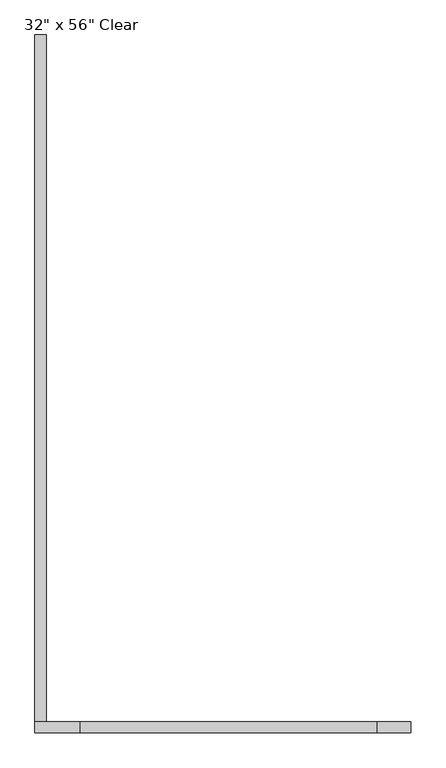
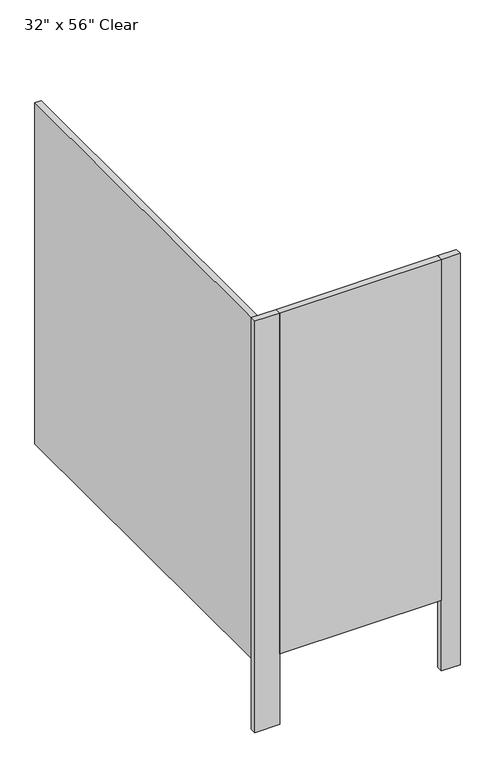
"""IFC4 building model written with IfcOpenShell, lengths in millimetres: proxy geometry."""

import ifcopenshell
import ifcopenshell.guid

model = None  # the IFC model being written
_history = None  # IfcOwnerHistory: only IFC2X3 demands one
_inside = {}  # id of a spatial element -> (the spatial element, [elements in it])
_under = {}  # id of a project, library or spatial element -> (it, [spatial elements below it])
_declared = {}  # id of a project -> (the project, [libraries it declares])
_typed = {}  # id of a type object -> (the type object, [elements of that type])
_made_of = {}  # id of a material, layer set ... -> (it, [elements and type objects made of it])


def new_model(schema):
    """Start an empty IFC model of exactly this schema.

    Asked for "IFC4X3", IfcOpenShell would pick the latest addendum, in which some entities
    have other attributes; the version numbers below select the first issue.
    IFC2X3 requires an IfcOwnerHistory on every rooted entity: one is made here for all.
    """
    global model, _history
    if schema == "IFC4X3":
        model = ifcopenshell.file(schema_version=(4, 3, 0, 0))
    else:
        model = ifcopenshell.file(schema=schema)
    _inside.clear()
    _under.clear()
    _declared.clear()
    _typed.clear()
    _made_of.clear()
    _history = None
    if model.schema == "IFC2X3":
        org = make("IfcOrganization", Name="unknown")
        user = make(
            "IfcPersonAndOrganization",
            ThePerson=make("IfcPerson", FamilyName="unknown"),
            TheOrganization=org,
        )
        app = make(
            "IfcApplication",
            ApplicationDeveloper=org,
            Version="unknown",
            ApplicationFullName="unknown",
            ApplicationIdentifier="unknown",
        )
        _history = make(
            "IfcOwnerHistory",
            OwningUser=user,
            OwningApplication=app,
            ChangeAction="ADDED",
            CreationDate=0,
        )
    return model


def make(cls, **values):
    """One entity of the class cls with the attributes given. An attribute that is None is left unset."""
    return model.create_entity(
        cls, **{name: value for name, value in values.items() if value is not None}
    )


def rooted(cls, **values):
    """An entity with a GlobalId (a new one), such as an element, a storey or a relation."""
    return make(cls, GlobalId=ifcopenshell.guid.new(), OwnerHistory=_history, **values)


def si_unit(unit_type, name, prefix=None):
    """IfcSIUnit, for example si_unit("LENGTHUNIT", "METRE", prefix="MILLI")."""
    return make("IfcSIUnit", UnitType=unit_type, Prefix=prefix, Name=name)


def assignment(units):
    """IfcUnitAssignment: the units of a project."""
    return None if units is None else make("IfcUnitAssignment", Units=units)


def point(xyz):
    """IfcCartesianPoint."""
    return None if xyz is None else make("IfcCartesianPoint", Coordinates=xyz)


def direction(xyz):
    """IfcDirection."""
    return None if xyz is None else make("IfcDirection", DirectionRatios=xyz)


def frame(location, z_axis=None, x_axis=None):
    """IfcAxis2Placement3D, a coordinate frame: its origin and axes. An axis left out is left unset."""
    return make(
        "IfcAxis2Placement3D",
        Location=point(location),
        Axis=direction(z_axis),
        RefDirection=direction(x_axis),
    )


def origin():
    """The frame at (0, 0, 0) with its axes left unset."""
    return frame((0.0, 0.0, 0.0))


def origin_with_axes():
    """The frame at (0, 0, 0) with the z axis (0, 0, 1) and the x axis (1, 0, 0) written out."""
    return frame((0.0, 0.0, 0.0), z_axis=(0.0, 0.0, 1.0), x_axis=(1.0, 0.0, 0.0))


def place(relative_to, where):
    """IfcLocalPlacement: puts the frame where relative to a parent placement (None: the world)."""
    return make(
        "IfcLocalPlacement", PlacementRelTo=relative_to, RelativePlacement=where
    )


def context(
    kind, dimensions, precision=None, world=None, true_north=None, identifier=None
):
    """IfcGeometricRepresentationContext, for example the 3D "Model" context."""
    return make(
        "IfcGeometricRepresentationContext",
        ContextIdentifier=identifier,
        ContextType=kind,
        CoordinateSpaceDimension=dimensions,
        Precision=precision,
        WorldCoordinateSystem=world,
        TrueNorth=true_north,
    )


def project(units=None, contexts=None):
    """IfcProject with its units and contexts."""
    return rooted(
        "IfcProject",
        Name="project",
        RepresentationContexts=contexts,
        UnitsInContext=assignment(units),
    )


def spatial(cls, under=None, at=None, **own):
    """A site, building, storey or space (cls), placed at a placement, below another one or the project."""
    s = rooted(cls, ObjectPlacement=at, **own)
    if under is not None:
        _under.setdefault(under.id(), (under, []))[1].append(s)
    return s


def polyline(points):
    """IfcPolyline through the points."""
    return make("IfcPolyline", Points=[point(p) for p in points])


def outline(outer, holes=None, kind="AREA"):
    """IfcArbitraryClosedProfileDef: a profile drawn as a closed curve; with holes, ...WithVoids."""
    if holes is None:
        return make("IfcArbitraryClosedProfileDef", ProfileType=kind, OuterCurve=outer)
    return make(
        "IfcArbitraryProfileDefWithVoids",
        ProfileType=kind,
        OuterCurve=outer,
        InnerCurves=holes,
    )


def extrude(swept, where, along, depth):
    """IfcExtrudedAreaSolid: the profile swept, set in the frame where, extruded along a direction by depth."""
    return make(
        "IfcExtrudedAreaSolid",
        SweptArea=swept,
        Position=where,
        ExtrudedDirection=direction(along),
        Depth=depth,
    )


def shape(context_of_items, identifier, shape_type, items):
    """IfcShapeRepresentation: the items that make up one representation, for example the "Body"."""
    return make(
        "IfcShapeRepresentation",
        ContextOfItems=context_of_items,
        RepresentationIdentifier=identifier,
        RepresentationType=shape_type,
        Items=items,
    )


def source(mapping_origin, context_of_items, identifier, shape_type, items):
    """IfcRepresentationMap: a shape defined once, which mapped items show again and again."""
    return make(
        "IfcRepresentationMap",
        MappingOrigin=mapping_origin,
        MappedRepresentation=shape(context_of_items, identifier, shape_type, items),
    )


def transform(
    local_origin,
    x_axis=None,
    y_axis=None,
    z_axis=None,
    scale=None,
    scale2=None,
    scale3=None,
    uniform=True,
):
    """IfcCartesianTransformationOperator3D, or its non-uniform kind. x_axis, y_axis, z_axis: its Axis1, 2, 3."""
    if uniform:
        return make(
            "IfcCartesianTransformationOperator3D",
            Axis1=direction(x_axis),
            Axis2=direction(y_axis),
            LocalOrigin=point(local_origin),
            Scale=scale,
            Axis3=direction(z_axis),
        )
    return make(
        "IfcCartesianTransformationOperator3DnonUniform",
        Axis1=direction(x_axis),
        Axis2=direction(y_axis),
        LocalOrigin=point(local_origin),
        Scale=scale,
        Axis3=direction(z_axis),
        Scale2=scale2,
        Scale3=scale3,
    )


def mapped(mapping_source, mapping_target):
    """IfcMappedItem: shows the shape of a source again, moved by a transform."""
    return make(
        "IfcMappedItem", MappingSource=mapping_source, MappingTarget=mapping_target
    )


def made_of(thing, what):
    """Note that an element or type object is made of a material, layer set ...; save() writes the relation."""
    if what is not None:
        _made_of.setdefault(what.id(), (what, []))[1].append(thing)
    return thing


def element(
    cls,
    number,
    at=None,
    inside=None,
    cuts=None,
    type_object=None,
    material=None,
    context=None,
    identifier="Body",
    shape_type=None,
    held_by="IfcProductDefinitionShape",
    body=None,
    shapes=None,
    **own,
):
    """One element of the class cls, such as IfcWall. Its Tag is "e" and its number.

    at: its placement. inside: the storey or other place that contains it. cuts: it is an
    opening in that element (IfcRelVoidsElement). A single representation is given by context,
    identifier, shape_type and body (its items); several are given by shapes. held_by: the class
    of the entity that holds the representations. save() writes the other relations.
    """
    e = rooted(cls, Tag="e%d" % number, ObjectPlacement=at, **own)
    if body is not None:
        shapes = [shape(context, identifier, shape_type, body)]
    if shapes is not None:
        e.Representation = make(held_by, Representations=shapes)
    if inside is not None:
        _inside.setdefault(inside.id(), (inside, []))[1].append(e)
    if cuts is not None:
        rooted(
            "IfcRelVoidsElement", RelatingBuildingElement=cuts, RelatedOpeningElement=e
        )
    if type_object is not None:
        _typed.setdefault(type_object.id(), (type_object, []))[1].append(e)
    return made_of(e, material)


def aggregate(whole, parts):
    """IfcRelAggregates: a whole, such as a stair, and the parts it consists of."""
    return rooted("IfcRelAggregates", RelatingObject=whole, RelatedObjects=parts)


def save(model, path):
    """Write the relations noted so far, then the file.

    IfcRelAggregates (storeys below a building ...), IfcRelContainedInSpatialStructure (elements
    in a storey), IfcRelDefinesByType, IfcRelAssociatesMaterial and IfcRelDeclares: one each for
    every whole, place, type object, material and project.
    """
    for whole, parts in _under.values():
        aggregate(whole, parts)
    for where, things in _inside.values():
        rooted(
            "IfcRelContainedInSpatialStructure",
            RelatedElements=things,
            RelatingStructure=where,
        )
    for kind, things in _typed.values():
        rooted("IfcRelDefinesByType", RelatedObjects=things, RelatingType=kind)
    for what, things in _made_of.values():
        rooted("IfcRelAssociatesMaterial", RelatedObjects=things, RelatingMaterial=what)
    for by, libraries in _declared.values():
        rooted("IfcRelDeclares", RelatingContext=by, RelatedDefinitions=libraries)
    model.write(path)


def proxy_75c98dfb(model_context):
    return source(origin(), model_context, "Body", "SweptSolid", [
        extrude(outline(polyline([(735.1031538, -1619.25), (74.7031538, -1619.25), (74.7031538, -1593.85), (735.1031538, -1593.85), (735.1031538, -1619.25)])), frame((0.0, 0.0, 304.8), z_axis=(0.0, 0.0, 1.0), x_axis=(1.0, 0.0, 0.0)), (0.0, 0.0, 1.0), 1473.2),
        extrude(outline(polyline([(74.7031538, -1619.25), (-26.8968462, -1619.25), (-26.8968462, -1593.85), (74.7031538, -1593.85), (74.7031538, -1619.25)])), origin_with_axes(), (0.0, 0.0, 1.0), 1778.0),
        extrude(outline(polyline([(811.3031538, -1619.25), (735.1031538, -1619.25), (735.1031538, -1593.85), (811.3031538, -1593.85), (811.3031538, -1619.25)])), origin_with_axes(), (0.0, 0.0, 1.0), 1778.0),
        extrude(outline(polyline([(-26.8968462, -1593.85), (-26.8968462, -63.5), (-1.4968462, -63.5), (-1.4968462, -1593.85), (-26.8968462, -1593.85)])), frame((0.0, 0.0, 304.8), z_axis=(0.0, 0.0, 1.0), x_axis=(1.0, 0.0, 0.0)), (0.0, 0.0, 1.0), 1473.2),
    ])


if __name__ == "__main__":
    model = new_model("IFC4")
    model_context = context("Model", 3, world=origin())
    ifc_project = project(units=[si_unit("LENGTHUNIT", "METRE", prefix="MILLI")], contexts=[model_context])
    site = spatial("IfcSite", under=ifc_project)
    building = spatial("IfcBuilding", under=site)
    placement = place(None, origin())
    proxy_shape = proxy_75c98dfb(model_context)
    element("IfcBuildingElementProxy", 1, Name="Toilet Stall-3D w Toilet : 32\" x 56\" Clear", ObjectType="Toilet Stall-3D w Toilet : 32\" x 56\" Clear", at=placement, inside=building, context=model_context, shape_type="MappedRepresentation", body=[
        mapped(proxy_shape, transform((0.0, 0.0, 0.0), x_axis=(1.0, 0.0, 0.0), y_axis=(0.0, 1.0, 0.0), z_axis=(0.0, 0.0, 1.0))),
    ])
    save(model, "model.ifc")
